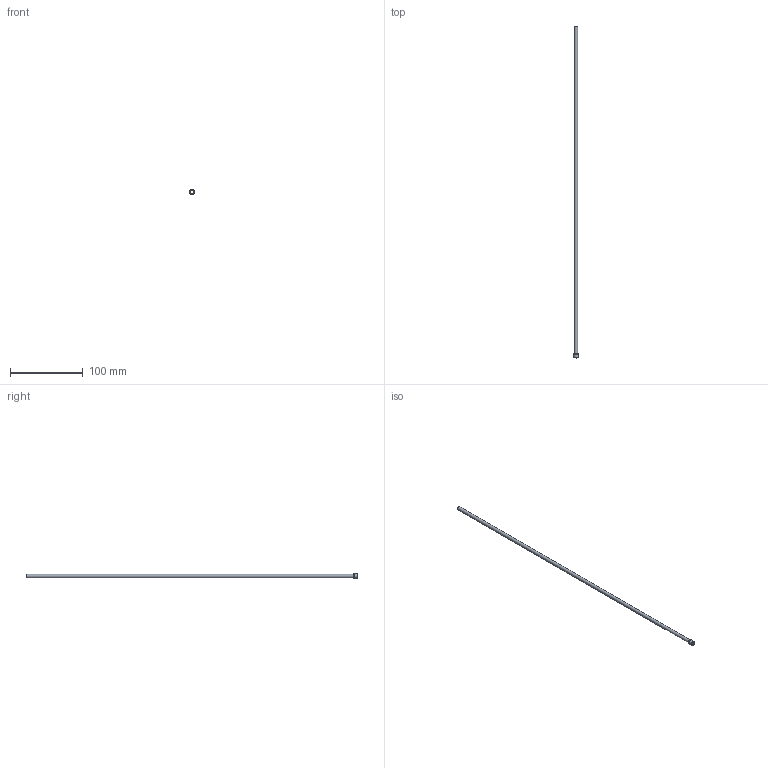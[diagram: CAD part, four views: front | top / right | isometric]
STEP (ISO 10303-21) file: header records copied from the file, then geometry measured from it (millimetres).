
FILE_DESCRIPTION(/* description */ (''),/* implementation_level */ '2;1');
FILE_NAME(/* name */ 'C:/Users/drich/Desktop/HF187T-18 v2.step',/* time_stamp */ '2019-12-30T13:30:01-06:00',/* author */ (''),/* organization */ (''),/* preprocessor_version */ 'ST-DEVELOPER v18',/* originating_system */ 'Autodesk Translation Framework v8.12.0.6',/* authorisation */ '');
FILE_SCHEMA (('AUTOMOTIVE_DESIGN { 1 0 10303 214 3 1 1 }'));
Length unit declared in the file: inch
Products named in the file (1): HF187T-18
Bounding box: 6.4 x 457.2 x 6.4 mm (x, y, z)
Volume: 1724.7 mm3; surface area: 12974.1 mm2
Topology: 1 solids, 1 shells, 12 faces, 30 edges, 22 vertices
Faces by surface type: plane 4, cylinder 4, torus 3, cone 1
Full cylindrical faces by diameter (mm): 4.242 x1, 4.75 x1, 6.243 x1, 6.401 x1
Entity records: 426 total; most frequent: DIRECTION 81, CARTESIAN_POINT 65, ORIENTED_EDGE 60, AXIS2_PLACEMENT_3D 38, EDGE_CURVE 30, CIRCLE 25, VERTEX_POINT 22, EDGE_LOOP 16
